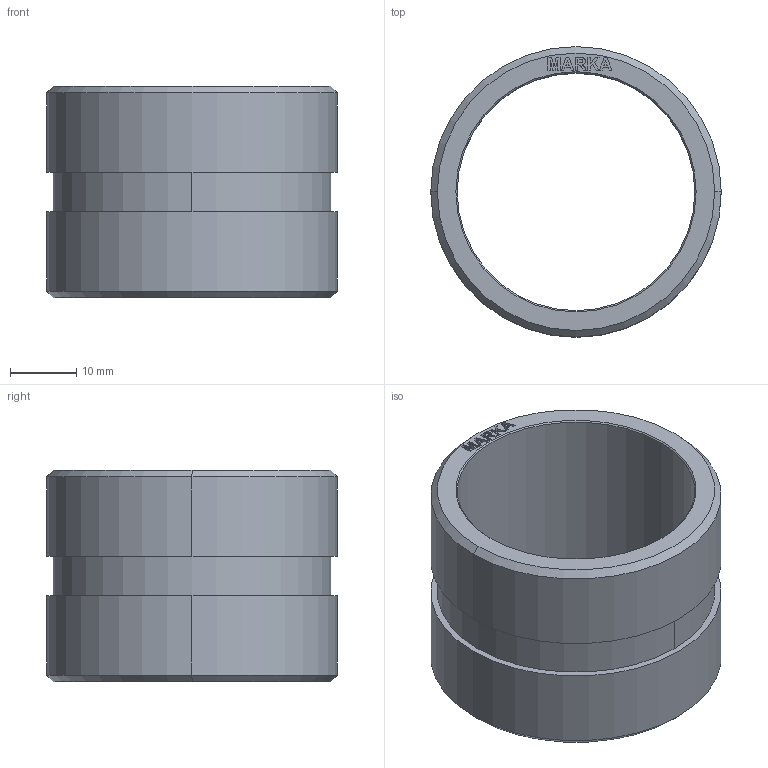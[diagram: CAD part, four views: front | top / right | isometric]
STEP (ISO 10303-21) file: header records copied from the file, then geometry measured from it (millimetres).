
FILE_DESCRIPTION(('CATIA V5 STEP','CAx-IF Rec.Pracs.--- Model Styling and Organization---1.4--- 2014-01-23','CAx-IF Rec.Pracs.---3D Tessellated Data Validation Properties---0.5---2014-09-14'),'2;1');
FILE_NAME('\\GSBFILE\data\URETIM\3D DATALAR\2016\KALIP ELEMANLARI\C KODLARI\C104-02\C104-02-040-030.stp','2019-08-06T07:45:29+00:00',('none'),('none'),'CATIA Version 5-6 Release 2016 SP6 HF8','CATIA V5 STEP AP242','none');
FILE_SCHEMA(('AP242_MANAGED_MODEL_BASED_3D_ENGINEERING_MIM_LF {1 0 10303 442 1 1 4}'));
Length unit declared in the file: millimetre
Products named in the file (1): Part1
Bounding box: 44 x 44 x 32 mm (x, y, z)
Volume: 15124.3 mm3; surface area: 9143.3 mm2
Topology: 1 solids, 1 shells, 246 faces, 694 edges, 460 vertices
Faces by surface type: plane 230, cylinder 8, cone 8
Entity records: 7869 total; most frequent: ORIENTED_EDGE 1388, CARTESIAN_POINT 1369, DIRECTION 1122, EDGE_CURVE 694, VECTOR 670, LINE 670, VERTEX_POINT 460, EDGE_LOOP 258
